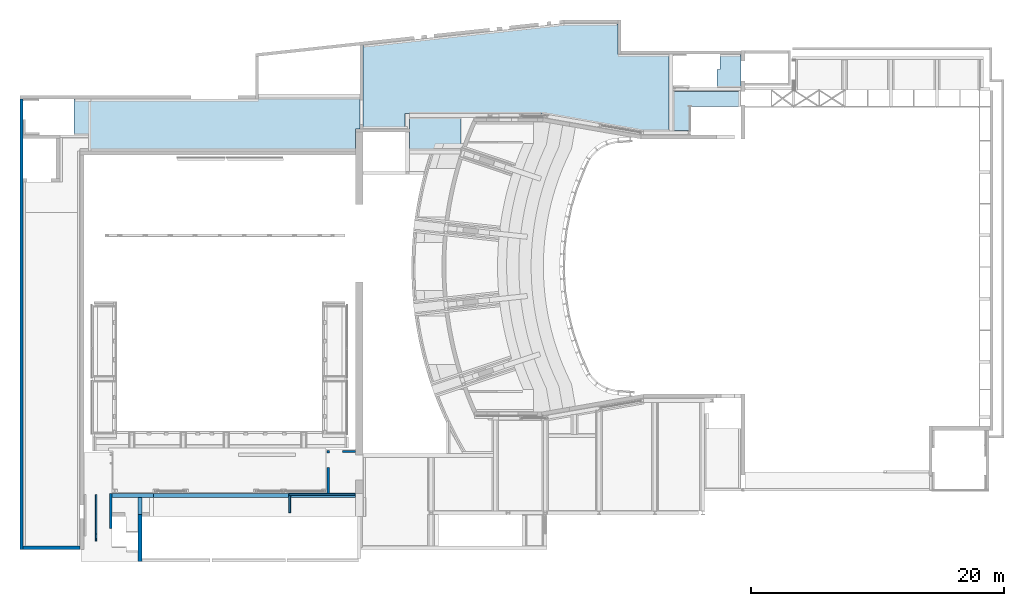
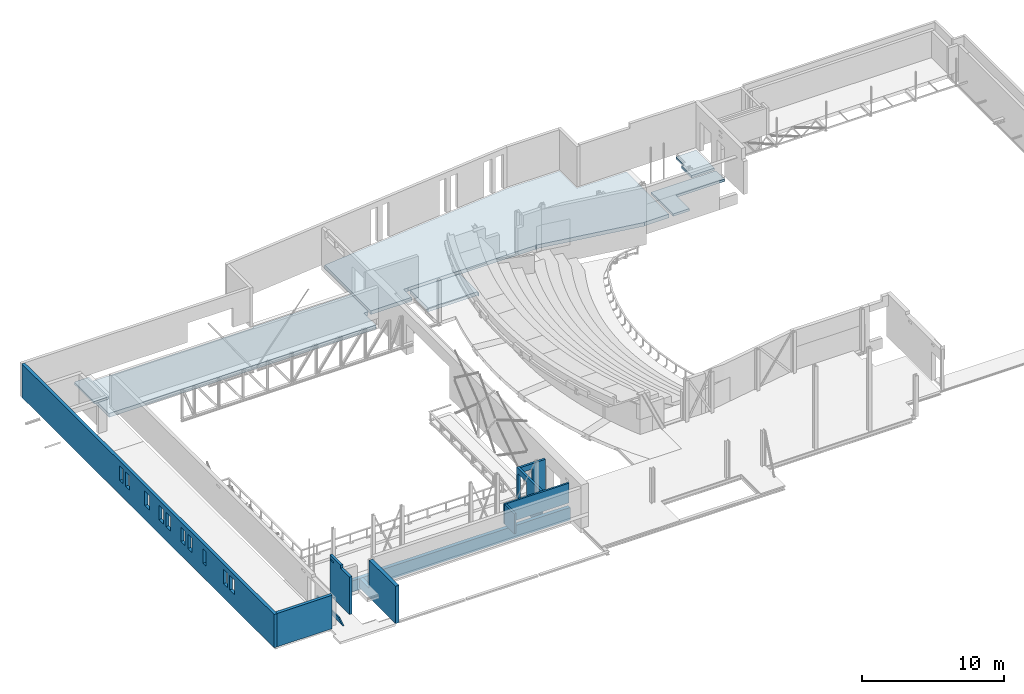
# One storey, part 50 of 68: 10 walls, 5 slabs, 25 openings.
"""IFC2X3 building model written with IfcOpenShell, lengths in millimetres."""

from ifc_helpers import new_model, entity, si_unit, converted_unit, derived_unit, direction, frame, frame_2d, origin, origin_2d_with_axis, place, context, subcontext, project, spatial, polyline, rectangle, outline, extrude, clip, halfspace, bounded_halfspace, faceted_brep, material, layer, layer_set, layer_usage, type_object, element, save


model = new_model("IFC2X3")

# Units and contexts
model_context = context("Model", 3, precision=0.01, world=origin(), true_north=direction((6.12303176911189e-17, 1.0)))
body_context = subcontext(model_context, "Body", "Model", "MODEL_VIEW")
ifc_project = project(units=[si_unit("LENGTHUNIT", "METRE", prefix="MILLI"), si_unit("AREAUNIT", "SQUARE_METRE", prefix="MILLI"), si_unit("VOLUMEUNIT", "CUBIC_METRE"), converted_unit("PLANEANGLEUNIT", "DEGREE", entity("IfcRatioMeasure", 0.0174532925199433), si_unit("PLANEANGLEUNIT", "RADIAN"), dimensions=[0, 0, 0, 0, 0, 0, 0]), si_unit("MASSUNIT", "GRAM", prefix="KILO"), derived_unit("MASSDENSITYUNIT", [(si_unit("MASSUNIT", "GRAM", prefix="KILO"), 1), (si_unit("LENGTHUNIT", "METRE"), -3)]), derived_unit("MOMENTOFINERTIAUNIT", [(si_unit("LENGTHUNIT", "METRE"), 4)]), si_unit("TIMEUNIT", "SECOND"), si_unit("FREQUENCYUNIT", "HERTZ"), si_unit("THERMODYNAMICTEMPERATUREUNIT", "DEGREE_CELSIUS"), derived_unit("THERMALTRANSMITTANCEUNIT", [(si_unit("MASSUNIT", "GRAM", prefix="KILO"), 1), (si_unit("THERMODYNAMICTEMPERATUREUNIT", "KELVIN"), -1), (si_unit("TIMEUNIT", "SECOND"), -3)]), derived_unit("VOLUMETRICFLOWRATEUNIT", [(si_unit("LENGTHUNIT", "METRE"), 3), (si_unit("TIMEUNIT", "SECOND"), -1)]), si_unit("ELECTRICCURRENTUNIT", "AMPERE"), si_unit("ELECTRICVOLTAGEUNIT", "VOLT"), si_unit("POWERUNIT", "WATT"), si_unit("FORCEUNIT", "NEWTON", prefix="KILO"), si_unit("ILLUMINANCEUNIT", "LUX"), si_unit("LUMINOUSFLUXUNIT", "LUMEN"), si_unit("LUMINOUSINTENSITYUNIT", "CANDELA"), derived_unit("USERDEFINED", [(si_unit("MASSUNIT", "GRAM", prefix="KILO"), -1), (si_unit("LENGTHUNIT", "METRE"), -2), (si_unit("TIMEUNIT", "SECOND"), 3), (si_unit("LUMINOUSFLUXUNIT", "LUMEN"), 1)]), derived_unit("LINEARVELOCITYUNIT", [(si_unit("LENGTHUNIT", "METRE"), 1), (si_unit("TIMEUNIT", "SECOND"), -1)]), si_unit("PRESSUREUNIT", "PASCAL"), derived_unit("USERDEFINED", [(si_unit("LENGTHUNIT", "METRE"), -2), (si_unit("MASSUNIT", "GRAM", prefix="KILO"), 1), (si_unit("TIMEUNIT", "SECOND"), -2)]), derived_unit("LINEARFORCEUNIT", [(si_unit("MASSUNIT", "GRAM", prefix="KILO"), 1), (si_unit("LENGTHUNIT", "METRE"), 1), (si_unit("TIMEUNIT", "SECOND"), -2), (si_unit("LENGTHUNIT", "METRE"), -1)]), derived_unit("PLANARFORCEUNIT", [(si_unit("MASSUNIT", "GRAM", prefix="KILO"), 1), (si_unit("LENGTHUNIT", "METRE"), 1), (si_unit("TIMEUNIT", "SECOND"), -2), (si_unit("LENGTHUNIT", "METRE"), -2)])], contexts=[model_context])

# Site, building, storey
site_placement = place(None, origin())
site = spatial("IfcSite", under=ifc_project, at=site_placement, Name="Theater aan de Parade", CompositionType="ELEMENT")
building_placement = place(site_placement, origin())
building = spatial("IfcBuilding", under=site, at=building_placement, Name="Theater aan de Parade", CompositionType="ELEMENT")
storey_placement = place(building_placement, frame((0.0, 0.0, 8750.0)))
storey = spatial("IfcBuildingStorey", under=building, at=storey_placement, Name="02 tweede verdieping", CompositionType="ELEMENT", Elevation=8750.0)

# Slab, openings
ifc_material_1 = material(Name="00_PBT_MAT_systeemvloer")
ifc_layer_1 = layer(ifc_material_1, 320.0)
ifc_layer_set_1 = layer_set([ifc_layer_1], Name="Floor:28_PBT_FL_kanaalplaat_d=320")
ifc_layer_usage_1 = layer_usage(ifc_layer_set_1, "AXIS3", "POSITIVE", 0.0)
slab_type_1 = type_object("IfcSlabType", Name="Floor:28_PBT_FL_kanaalplaat_d=320", PredefinedType="FLOOR", material=ifc_layer_set_1)
slab_1_placement = place(storey_placement, frame((37453.8581300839, 41510.0, -460.0)))
slab_1 = element("IfcSlab", 1, at=slab_1_placement, inside=storey, type_object=slab_type_1, material=ifc_layer_usage_1, Name="Floor:28_PBT_FL_kanaalplaat_d=320", ObjectType="Floor:28_PBT_FL_kanaalplaat_d=320", PredefinedType="FLOOR", context=body_context, shape_type="SweptSolid", body=[
    extrude(outline(polyline([(12105.0120631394, -3185.25955352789), (12105.0120631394, 3347.75659825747), (-3815.5277852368, 5075.25955912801), (-8078.16137009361, 5075.25955912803), (-8078.16137009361, 2636.304931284), (-12315.0120631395, 2636.304931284), (-12315.0120631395, -3550.25955352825), (-9924.67584807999, -3550.2595535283), (-2153.24727665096, -2190.25955352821), (4364.30703170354, -2190.25955352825), (4364.30703170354, -5075.25955912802), (8445.01206572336, -5075.25955912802), (8445.01206572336, -3185.25955352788), (12105.0120631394, -3185.25955352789)])), frame((12105.0120631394, 5075.25955912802, 320.0), z_axis=(0.0, 0.0, -1.0), x_axis=(-1.0, 0.0, 0.0)), (0.0, 0.0, 1.0), 320.0),
])
opening_1_placement = place(slab_1_placement, origin())
element("IfcOpeningElement", 2, at=opening_1_placement, cuts=slab_1, ObjectType="Opening", context=body_context, shape_type="SweptSolid", body=[
    extrude(rectangle(XDim=339.999999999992, YDim=4820.00000559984, at=origin_2d_with_axis()), frame((3510.0, 625.000002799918, 0.0), z_axis=(0.0, 0.0, 1.0), x_axis=(-1.0, 0.0, 0.0)), (0.0, 0.0, 1.0), 320.0),
])
opening_2_placement = place(slab_1_placement, frame((3672.69999741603, 2610.00000559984, -5.0)))
element("IfcOpeningElement", 3, at=opening_2_placement, cuts=slab_1, ObjectType="Opening", context=body_context, shape_type="Brep", body=[
    faceted_brep([(10417.9108771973, 105.0, 325.0), (10417.9108771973, 445.0, 325.0), (0.0, 445.0, 325.0), (0.0, 105.0, 325.0), (10417.9108771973, 445.0, 0.0), (10417.9108771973, 445.0, 1.0), (10417.9108771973, 105.0, 0.0), (10417.9108771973, 445.0, 2.0), (10417.9108771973, 550.0, 1.0), (10417.9108771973, 550.0, 2.0), (0.0, 105.0, 1.0), (0.0, 0.0, 1.0), (0.0, 0.0, 2.0), (0.0, 105.0, 0.0), (0.0, 445.0, 1.0), (0.0, 445.0, 0.0), (0.0, 550.0, 1.0), (0.0, 550.0, 2.0), (0.0, 445.0, 2.0), (0.0, 105.0, 2.0), (9917.91087719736, 445.0, 1.0), (9917.91087719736, 445.0, 2.0), (150.0, 445.0, 1.0), (150.0, 445.0, 2.0), (100.0, 105.0, 2.0), (100.0, 105.0, 1.0), (150.0, 550.0, 2.0), (150.0, 550.0, 1.0), (100.0, 0.0, 2.0), (100.0, 0.0, 1.0), (9917.91087719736, 550.0, 2.0), (9917.91087719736, 550.0, 1.0)], [[[0, 1, 2]], [[2, 3, 0]], [[4, 5, 6]], [[7, 6, 5]], [[8, 9, 5]], [[1, 0, 7]], [[6, 7, 0]], [[5, 9, 7]], [[10, 11, 12]], [[13, 10, 14]], [[14, 15, 13]], [[16, 14, 17]], [[10, 18, 14]], [[19, 3, 2]], [[19, 18, 10]], [[17, 14, 18]], [[2, 18, 19]], [[10, 12, 19]], [[4, 20, 5]], [[20, 4, 15]], [[1, 7, 21]], [[1, 21, 2]], [[20, 22, 21]], [[22, 15, 14]], [[15, 22, 20]], [[23, 18, 2]], [[23, 2, 21]], [[22, 23, 21]], [[0, 24, 6]], [[24, 0, 3]], [[6, 25, 13]], [[25, 6, 24]], [[3, 19, 24]], [[10, 13, 25]], [[4, 6, 13]], [[13, 15, 4]], [[18, 23, 17]], [[26, 17, 23]], [[16, 27, 22]], [[22, 14, 16]], [[26, 23, 22]], [[22, 27, 26]], [[17, 26, 27]], [[27, 16, 17]], [[28, 24, 12]], [[19, 12, 24]], [[11, 10, 25]], [[25, 29, 11]], [[28, 12, 11]], [[11, 29, 28]], [[24, 28, 29]], [[29, 25, 24]], [[21, 7, 9]], [[9, 30, 21]], [[31, 8, 5]], [[5, 20, 31]], [[30, 9, 8]], [[8, 31, 30]], [[21, 30, 31]], [[31, 20, 21]]]),
])
opening_3_placement = place(slab_1_placement, origin())
element("IfcOpeningElement", 4, at=opening_3_placement, cuts=slab_1, ObjectType="Opening", context=body_context, shape_type="SweptSolid", body=[
    extrude(rectangle(XDim=340.000000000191, YDim=3727.76816918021, at=origin_2d_with_axis()), frame((24063.8426372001, 1525.00000568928, -5.0), z_axis=(0.0, 0.0, 1.0), x_axis=(0.0, 1.0, 0.0)), (0.0, 0.0, 1.0), 325.0),
])
opening_4_placement = place(slab_1_placement, origin())
element("IfcOpeningElement", 5, at=opening_4_placement, cuts=slab_1, ObjectType="Opening", context=body_context, shape_type="SweptSolid", body=[
    extrude(rectangle(XDim=300.000000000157, YDim=5372.37384459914, at=origin_2d_with_axis()), frame((27216.2110485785, 4986.86312279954, 0.0), z_axis=(0.0, 0.0, 1.0), x_axis=(0.0, 1.0, 0.0)), (0.0, 0.0, 1.0), 325.0),
])
opening_5_placement = place(slab_1_placement, origin())
element("IfcOpeningElement", 6, at=opening_5_placement, cuts=slab_1, ObjectType="Opening", context=body_context, shape_type="SweptSolid", body=[
    extrude(rectangle(XDim=340.000000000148, YDim=6076.9979908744, at=origin_2d_with_axis()), frame((24380.0241262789, 4713.499001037, -5.0)), (0.0, 0.0, 1.0), 325.0),
])
opening_6_placement = place(slab_1_placement, origin())
element("IfcOpeningElement", 7, at=opening_6_placement, cuts=slab_1, ObjectType="Opening", context=body_context, shape_type="SweptSolid", body=[
    extrude(rectangle(XDim=340.000000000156, YDim=8227.18093451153, at=origin_2d_with_axis()), frame((18142.8870244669, 2205.19016078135, -5.0), z_axis=(0.0, 0.0, 1.0), x_axis=(0.172380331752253, 0.985030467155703, 0.0)), (0.0, 0.0, 1.0), 325.0),
])
opening_7_placement = place(slab_1_placement, origin())
element("IfcOpeningElement", 8, at=opening_7_placement, cuts=slab_1, ObjectType="Opening", context=body_context, shape_type="SweptSolid", body=[
    extrude(rectangle(XDim=4071.14187250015, YDim=340.000000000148, at=origin_2d_with_axis()), frame((5695.57093366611, 0.0, -5.0)), (0.0, 0.0, 1.0), 415.0),
])

# Slabs
ifc_layer_usage_2 = layer_usage(ifc_layer_set_1, "AXIS3", "POSITIVE", 0.0)
slab_type_2 = type_object("IfcSlabType", Name="Floor:28_PBT_FL_kanaalplaat_d=320", PredefinedType="FLOOR", material=ifc_layer_set_1)
slab_2_placement = place(storey_placement, origin())
element("IfcSlab", 9, at=slab_2_placement, inside=storey, type_object=slab_type_2, material=ifc_layer_usage_2, Name="Floor:28_PBT_FL_kanaalplaat_d=320", ObjectType="Floor:28_PBT_FL_kanaalplaat_d=320", PredefinedType="FLOOR", context=body_context, shape_type="SweptSolid", body=[
    extrude(outline(polyline([(-2483.26875467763, -14521.2607047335), (1566.42291822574, -14521.2607047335), (1566.42291822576, -386.220140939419), (1673.42291822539, -386.220140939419), (1673.42291822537, 7628.74042283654), (-756.577081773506, 7628.74042283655), (-756.577081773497, 7278.74042283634), (-2483.26875467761, 7278.74042283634), (-2483.26875467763, -14521.2607047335)])), frame((29575.1177072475, 44106.5770817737, -80.0), z_axis=(0.0, 0.0, -1.0), x_axis=(0.0, 1.0, 0.0)), (0.0, 0.0, 1.0), 320.0),
])
ifc_layer_2 = layer(ifc_material_1, 200.0)
ifc_layer_set_2 = layer_set([ifc_layer_2], Name="Floor:28_PBT_FL_massieve plaat_d=200")
ifc_layer_usage_3 = layer_usage(ifc_layer_set_2, "AXIS3", "POSITIVE", 0.0)
slab_type_3 = type_object("IfcSlabType", Name="Floor:28_PBT_FL_massieve plaat_d=200", PredefinedType="FLOOR", material=ifc_layer_set_2)
slab_3_placement = place(storey_placement, origin())
element("IfcSlab", 10, at=slab_3_placement, inside=storey, type_object=slab_type_3, material=ifc_layer_usage_3, Name="Floor:28_PBT_FL_massieve plaat_d=200", ObjectType="Floor:28_PBT_FL_massieve plaat_d=200", PredefinedType="FLOOR", context=body_context, shape_type="SweptSolid", body=[
    extrude(rectangle(XDim=2782.9999999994, YDim=1200.0, at=frame_2d((0.0, -1.08002495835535e-12), x_axis=(1.0, 0.0))), frame((15162.620676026, 44281.4999999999, 365.0), z_axis=(0.0, 0.0, -1.0), x_axis=(0.0, 1.0, 0.0)), (0.0, 0.0, 1.0), 200.0),
])

# Slab, opening
ifc_layer_usage_4 = layer_usage(ifc_layer_set_2, "AXIS3", "POSITIVE", 0.0)
slab_type_4 = type_object("IfcSlabType", Name="Floor:28_PBT_FL_massieve plaat_d=200", PredefinedType="FLOOR")
slab_4_placement = place(storey_placement, frame((62003.8822563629, 43205.0, -460.0)))
slab_4 = element("IfcSlab", 11, at=slab_4_placement, inside=storey, type_object=slab_type_4, material=ifc_layer_usage_4, Name="Floor:28_PBT_FL_massieve plaat_d=200", ObjectType="Floor:28_PBT_FL_massieve plaat_d=200", PredefinedType="FLOOR", context=body_context, shape_type="SweptSolid", body=[
    extrude(outline(polyline([(1338.80991866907, -3008.28224236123), (2676.18692229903, -3008.28224236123), (2676.18692229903, 104.281583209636), (-2626.18692229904, 104.281583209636), (-2626.18692229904, -1095.71841679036), (1338.80991866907, -1095.71841679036), (1338.80991866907, -3008.28224236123)])), frame((2676.18692229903, 3008.28224236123, 200.0), z_axis=(0.0, 0.0, -1.0), x_axis=(-1.0, 0.0, 0.0)), (0.0, 0.0, 1.0), 200.0),
])
placement = place(slab_4_placement, origin())
element("IfcOpeningElement", 12, at=placement, cuts=slab_4, ObjectType="Opening", context=body_context, shape_type="SweptSolid", body=[
    extrude(rectangle(XDim=300.000000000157, YDim=5372.37384459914, at=origin_2d_with_axis()), frame((2666.18692229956, 3291.86311711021, 0.0), z_axis=(0.0, 0.0, 1.0), x_axis=(0.0, 1.0, 0.0)), (0.0, 0.0, 1.0), 325.0),
])

slab_type_5 = type_object("IfcSlabType", Name="Floor:28_PBT_FL_massieve plaat_d=200", PredefinedType="FLOOR", material=ifc_layer_set_2)
slab_5_placement = place(storey_placement, frame((62003.8822563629, 43205.0, -460.0)))
slab_5 = element("IfcSlab", 13, at=slab_5_placement, inside=storey, type_object=slab_type_5, material=ifc_layer_usage_4, Name="Floor:28_PBT_FL_massieve plaat_d=200:2", ObjectType="Floor:28_PBT_FL_massieve plaat_d=200", PredefinedType="FLOOR", context=body_context, shape_type="SweptSolid", body=[
    extrude(outline(polyline([(-2676.18692229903, 3008.28224236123), (-2676.18692229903, 433.580874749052), (-806.061221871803, 433.580874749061), (-806.061221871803, 1838.71574842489), (-1033.81307773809, 1838.71574842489), (-1033.81307773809, 3008.28224236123), (-2676.18692229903, 3008.28224236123)])), frame((2676.18692229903, 3008.28224236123, 200.0), z_axis=(0.0, 0.0, -1.0), x_axis=(-1.0, 0.0, 0.0)), (0.0, 0.0, 1.0), 200.0),
])
element("IfcOpeningElement", 14, at=placement, cuts=slab_5, ObjectType="Opening", context=body_context, shape_type="SweptSolid", body=[
    extrude(rectangle(XDim=300.000000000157, YDim=5372.37384459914, at=origin_2d_with_axis()), frame((2666.18692229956, 3291.86311711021, 0.0), z_axis=(0.0, 0.0, 1.0), x_axis=(0.0, 1.0, 0.0)), (0.0, 0.0, 1.0), 325.0),
])

# Wall, opening
ifc_material_2 = material(Name="00_PBT_MAT_beton t.p.g._C30/37")
ifc_layer_3 = layer(ifc_material_2, 300.0)
ifc_layer_set_3 = layer_set([ifc_layer_3], Name="Basic Wall:28_PBT_WA_beton t.p.g._d=300_C30/37")
ifc_layer_usage_5 = layer_usage(ifc_layer_set_3, "AXIS2", "NEGATIVE", 150.0)
wall_type_1 = type_object("IfcWallType", Name="Basic Wall:28_PBT_WA_beton t.p.g._d=300_C30/37", PredefinedType="STANDARD", material=ifc_layer_set_3)
wall_1_placement = place(storey_placement, frame((19803.857002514, 14186.2906963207, -90.0), z_axis=(0.0, 0.0, 1.0), x_axis=(0.0, -1.0, 0.0)))
wall_1 = element("IfcWallStandardCase", 15, at=wall_1_placement, inside=storey, type_object=wall_type_1, material=ifc_layer_usage_5, Name="Basic Wall:28_PBT_WA_beton t.p.g._d=300_C30/37", ObjectType="Basic Wall:28_PBT_WA_beton t.p.g._d=300_C30/37", context=body_context, shape_type="SweptSolid", body=[
    extrude(rectangle(XDim=5097.3726639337, YDim=300.000000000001, at=frame_2d((2548.68633196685, 4.9737991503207e-13), x_axis=(-1.0, 0.0))), origin(), (0.0, 0.0, 1.0), 3220.00000000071),
])
opening_10_placement = place(wall_1_placement, origin())
element("IfcOpeningElement", 16, at=opening_10_placement, cuts=wall_1, Name="Basic Wall:28_PBT_WA_beton t.p.g._d=300_C30/37", ObjectType="Opening", context=body_context, shape_type="SweptSolid", body=[
    extrude(rectangle(XDim=2413.0, YDim=1517.06392662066, at=frame_2d((0.0, -4.54747350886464e-13), x_axis=(0.0, 1.0))), frame((608.53196331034, 150.0, 2013.50000000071), z_axis=(0.0, -1.0, 0.0), x_axis=(-1.0, 0.0, 0.0)), (0.0, 0.0, 1.0), 300.0),
])

# Wall
ifc_layer_usage_6 = layer_usage(ifc_layer_set_3, "AXIS2", "POSITIVE", -150.0)
wall_2_placement = place(storey_placement, frame((36853.8581300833, 14336.290696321, -250.0), z_axis=(0.0, 0.0, 1.0), x_axis=(-1.0, 0.0, 0.0)))
element("IfcWallStandardCase", 17, at=wall_2_placement, inside=storey, type_object=wall_type_1, material=ifc_layer_usage_6, Name="Basic Wall:28_PBT_WA_beton t.p.g._d=300_C30/37", ObjectType="Basic Wall:28_PBT_WA_beton t.p.g._d=300_C30/37", context=body_context, shape_type="Clipping", body=[
    clip(clip(extrude(rectangle(XDim=19250.0011275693, YDim=300.000000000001, at=frame_2d((9625.00056378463, 7.105427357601e-14), x_axis=(-1.0, 0.0))), origin(), (0.0, 0.0, 1.0), 1084.99999999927), bounded_halfspace(frame((0.0, -150.0, 1085.0), z_axis=(0.0, 0.0, -1.0), x_axis=(0.0, 1.0, 0.0)), True, frame((0.0, -150.0, 1085.0)), polyline([(0.0, 0.0), (16000.0011275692, 0.0), (16000.0011275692, 300.0), (0.0, 300.0), (0.0, 0.0)]))), bounded_halfspace(frame((16000.0011275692, -150.0, 967.0), z_axis=(0.0, 0.0, -1.0), x_axis=(0.0, 1.0, 0.0)), True, frame((16000.0011275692, -150.0, 967.0)), polyline([(0.0, 0.0), (3250.0, 0.0), (3250.0, 300.0), (1200.0, 300.0), (900.0, 300.0), (0.0, 300.0), (0.0, 0.0)]))),
])

# Wall, openings
ifc_layer_4 = layer(ifc_material_2, 250.0)
ifc_layer_set_4 = layer_set([ifc_layer_4], Name="Basic Wall:28_PBT_WA_beton t.p.g._d=250_C30/37")
ifc_layer_usage_7 = layer_usage(ifc_layer_set_4, "AXIS2", "POSITIVE", -125.0)
wall_type_2 = type_object("IfcWallType", Name="Basic Wall:28_PBT_WA_beton t.p.g._d=250_C30/37", PredefinedType="STANDARD", material=ifc_layer_set_4)
wall_3_placement = place(storey_placement, frame((10429.1125537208, 10069.3270746, 505.0), z_axis=(0.0, 0.0, 1.0), x_axis=(0.0, 1.0, 0.0)))
wall_3 = element("IfcWallStandardCase", 18, at=wall_3_placement, inside=storey, type_object=wall_type_2, material=ifc_layer_usage_7, Name="Basic Wall:28_PBT_WA_beton t.p.g._d=250_C30/37", ObjectType="Basic Wall:28_PBT_WA_beton t.p.g._d=250_C30/37", context=body_context, shape_type="SweptSolid", body=[
    extrude(rectangle(XDim=35653.6729253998, YDim=249.999999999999, at=frame_2d((17826.8364626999, 3.12638803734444e-13), x_axis=(-1.0, 0.0))), origin(), (0.0, 0.0, 1.0), 2885.0),
])
opening_11_placement = place(wall_3_placement, origin())
element("IfcOpeningElement", 19, at=opening_11_placement, cuts=wall_3, Name="Basic Wall:28_PBT_WA_beton t.p.g._d=250_C30/37", ObjectType="Opening", context=body_context, shape_type="SweptSolid", body=[
    extrude(rectangle(XDim=1249.99999999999, YDim=460.000000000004, at=frame_2d((0.0, -2.17426077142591e-12), x_axis=(1.0, 0.0))), frame((9829.97964800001, -125.0, 1825.0), z_axis=(0.0, 1.0, 0.0), x_axis=(0.0, 0.0, -1.0)), (0.0, 0.0, 1.0), 249.999999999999),
])
opening_12_placement = place(wall_3_placement, origin())
element("IfcOpeningElement", 20, at=opening_12_placement, cuts=wall_3, Name="Basic Wall:28_PBT_WA_beton t.p.g._d=250_C30/37", ObjectType="Opening", context=body_context, shape_type="SweptSolid", body=[
    extrude(rectangle(XDim=1249.99999999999, YDim=570.000000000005, at=frame_2d((0.0, 2.1600499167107e-12), x_axis=(1.0, 0.0))), frame((6884.89976780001, -125.0, 1825.0), z_axis=(0.0, 1.0, 0.0), x_axis=(0.0, 0.0, -1.0)), (0.0, 0.0, 1.0), 249.999999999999),
])
opening_13_placement = place(wall_3_placement, origin())
element("IfcOpeningElement", 21, at=opening_13_placement, cuts=wall_3, Name="Basic Wall:28_PBT_WA_beton t.p.g._d=250_C30/37", ObjectType="Opening", context=body_context, shape_type="SweptSolid", body=[
    extrude(rectangle(XDim=1249.99999999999, YDim=570.000000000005, at=frame_2d((0.0, 2.1600499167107e-12), x_axis=(1.0, 0.0))), frame((11884.8997584, -125.0, 1825.0), z_axis=(0.0, 1.0, 0.0), x_axis=(0.0, 0.0, -1.0)), (0.0, 0.0, 1.0), 249.999999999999),
])
opening_14_placement = place(wall_3_placement, origin())
element("IfcOpeningElement", 22, at=opening_14_placement, cuts=wall_3, Name="Basic Wall:28_PBT_WA_beton t.p.g._d=250_C30/37", ObjectType="Opening", context=body_context, shape_type="SweptSolid", body=[
    extrude(rectangle(XDim=1249.99999999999, YDim=570.000000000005, at=frame_2d((0.0, 2.1600499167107e-12), x_axis=(1.0, 0.0))), frame((12884.9921385, -125.0, 1825.0), z_axis=(0.0, 1.0, 0.0), x_axis=(0.0, 0.0, -1.0)), (0.0, 0.0, 1.0), 249.999999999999),
])
opening_15_placement = place(wall_3_placement, origin())
element("IfcOpeningElement", 23, at=opening_15_placement, cuts=wall_3, Name="Basic Wall:28_PBT_WA_beton t.p.g._d=250_C30/37", ObjectType="Opening", context=body_context, shape_type="SweptSolid", body=[
    extrude(rectangle(XDim=1249.99999999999, YDim=512.000000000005, at=origin_2d_with_axis()), frame((21588.9785241, -125.0, 1825.0), z_axis=(0.0, 1.0, 0.0), x_axis=(0.0, 0.0, -1.0)), (0.0, 0.0, 1.0), 249.999999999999),
])
opening_16_placement = place(wall_3_placement, origin())
element("IfcOpeningElement", 24, at=opening_16_placement, cuts=wall_3, Name="Basic Wall:28_PBT_WA_beton t.p.g._d=250_C30/37", ObjectType="Opening", context=body_context, shape_type="SweptSolid", body=[
    extrude(rectangle(XDim=1249.99999999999, YDim=591.000000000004, at=origin_2d_with_axis()), frame((20717.4785228, -125.0, 1825.0), z_axis=(0.0, 1.0, 0.0), x_axis=(0.0, 0.0, -1.0)), (0.0, 0.0, 1.0), 249.999999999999),
])
opening_17_placement = place(wall_3_placement, origin())
element("IfcOpeningElement", 25, at=opening_17_placement, cuts=wall_3, Name="Basic Wall:28_PBT_WA_beton t.p.g._d=250_C30/37", ObjectType="Opening", context=body_context, shape_type="SweptSolid", body=[
    extrude(rectangle(XDim=1249.99999999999, YDim=680.000000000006, at=frame_2d((0.0, 2.1600499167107e-12), x_axis=(1.0, 0.0))), frame((5940.89976780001, -125.0, 1825.0), z_axis=(0.0, 1.0, 0.0), x_axis=(0.0, 0.0, -1.0)), (0.0, 0.0, 1.0), 249.999999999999),
])
opening_18_placement = place(wall_3_placement, origin())
element("IfcOpeningElement", 26, at=opening_18_placement, cuts=wall_3, Name="Basic Wall:28_PBT_WA_beton t.p.g._d=250_C30/37", ObjectType="Opening", context=body_context, shape_type="SweptSolid", body=[
    extrude(rectangle(XDim=1249.99999999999, YDim=680.000000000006, at=frame_2d((0.0, -2.1600499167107e-12), x_axis=(1.0, 0.0))), frame((14940.9796386, -125.0, 1825.0), z_axis=(0.0, 1.0, 0.0), x_axis=(0.0, 0.0, -1.0)), (0.0, 0.0, 1.0), 249.999999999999),
])
opening_19_placement = place(wall_3_placement, origin())
element("IfcOpeningElement", 27, at=opening_19_placement, cuts=wall_3, Name="Basic Wall:28_PBT_WA_beton t.p.g._d=250_C30/37", ObjectType="Opening", context=body_context, shape_type="SweptSolid", body=[
    extrude(rectangle(XDim=1249.99999999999, YDim=680.000000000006, at=frame_2d((0.0, -2.1600499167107e-12), x_axis=(1.0, 0.0))), frame((15939.3224091, -125.0, 1825.0), z_axis=(0.0, 1.0, 0.0), x_axis=(0.0, 0.0, -1.0)), (0.0, 0.0, 1.0), 249.999999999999),
])
opening_20_placement = place(wall_3_placement, origin())
element("IfcOpeningElement", 28, at=opening_20_placement, cuts=wall_3, Name="Basic Wall:28_PBT_WA_beton t.p.g._d=250_C30/37", ObjectType="Opening", context=body_context, shape_type="SweptSolid", body=[
    extrude(rectangle(XDim=1249.99999999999, YDim=680.000000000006, at=frame_2d((0.0, 2.1600499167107e-12), x_axis=(1.0, 0.0))), frame((17939.3224091, -125.0, 1825.0), z_axis=(0.0, 1.0, 0.0), x_axis=(0.0, 0.0, -1.0)), (0.0, 0.0, 1.0), 249.999999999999),
])

# Wall
ifc_layer_usage_8 = layer_usage(ifc_layer_set_4, "AXIS2", "NEGATIVE", 125.0)
wall_4_placement = place(storey_placement, frame((10554.1125537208, 10194.3270746, 505.0)))
element("IfcWallStandardCase", 29, at=wall_4_placement, inside=storey, type_object=wall_type_2, material=ifc_layer_usage_8, Name="Basic Wall:28_PBT_WA_beton t.p.g._d=250_C30/37", ObjectType="Basic Wall:28_PBT_WA_beton t.p.g._d=250_C30/37", context=body_context, shape_type="SweptSolid", body=[
    extrude(rectangle(XDim=4499.74444879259, YDim=249.999999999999, at=frame_2d((2249.8722243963, 2.1316282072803e-13), x_axis=(-1.0, 0.0))), origin(), (0.0, 0.0, 1.0), 2885.0),
])

# Wall, openings
ifc_layer_5 = layer(ifc_material_2, 200.0)
ifc_layer_set_5 = layer_set([ifc_layer_5], Name="Basic Wall:28_PBT_WA_beton t.p.g._d=200_C30/37")
ifc_layer_usage_9 = layer_usage(ifc_layer_set_5, "AXIS2", "NEGATIVE", 100.0)
wall_type_3 = type_object("IfcWallType", Name="Basic Wall:28_PBT_WA_beton t.p.g._d=200_C30/37", PredefinedType="STANDARD", material=ifc_layer_set_5)
wall_5_placement = place(storey_placement, frame((17503.857002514, 14486.2906236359, -90.0), z_axis=(0.0, 0.0, 1.0), x_axis=(0.0, -1.0, 0.0)))
wall_5 = element("IfcWallStandardCase", 30, at=wall_5_placement, inside=storey, type_object=wall_type_3, material=ifc_layer_usage_9, Name="Basic Wall:28_PBT_WA_beton t.p.g._d=200_C30/37", ObjectType="Basic Wall:28_PBT_WA_beton t.p.g._d=200_C30/37", context=body_context, shape_type="Clipping", body=[
    clip(extrude(rectangle(XDim=2786.9709390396, YDim=199.999999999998, at=frame_2d((1393.4854695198, -7.105427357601e-13), x_axis=(-1.0, 0.0))), origin(), (0.0, 0.0, 1.0), 3480.0), bounded_halfspace(frame((1517.06385393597, -100.0, 3220.0), z_axis=(-1.0, 0.0, 0.0), x_axis=(0.0, 0.0, 1.0)), True, frame((1517.06385393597, -100.0, 3220.0), z_axis=(-1.0, 0.0, 0.0), x_axis=(0.0, 0.0, 1.0)), polyline([(0.0, 0.0), (260.0, 0.0), (260.0, 200.0), (0.0, 200.0), (0.0, 0.0)]))),
])
opening_21_placement = place(wall_5_placement, origin())
element("IfcOpeningElement", 31, at=opening_21_placement, cuts=wall_5, Name="Basic Wall:28_PBT_WA_beton t.p.g._d=200_C30/37", ObjectType="Opening", context=body_context, shape_type="SweptSolid", body=[
    extrude(rectangle(XDim=149.999999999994, YDim=450.000000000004, at=frame_2d((-1.08002495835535e-12, -1.08002495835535e-12), x_axis=(1.0, 0.0))), frame((326.290623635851, -100.0, 3118.30127018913), z_axis=(0.0, 1.0, 0.0), x_axis=(0.0, 0.0, -1.0)), (0.0, 0.0, 1.0), 199.999999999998),
])
opening_22_placement = place(wall_5_placement, origin())
element("IfcOpeningElement", 32, at=opening_22_placement, cuts=wall_5, Name="Basic Wall:28_PBT_WA_beton t.p.g._d=200_C30/37", ObjectType="Opening", context=body_context, shape_type="SweptSolid", body=[
    extrude(rectangle(XDim=259.999999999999, YDim=1119.90708510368, at=frame_2d((1.08002495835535e-12, 0.0), x_axis=(1.0, 0.0))), frame((2227.01739648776, 100.0, 3350.0), z_axis=(0.0, -1.0, 0.0), x_axis=(0.0, 0.0, 1.0)), (0.0, 0.0, 1.0), 200.0),
])

# Walls
ifc_material_3 = material(Name="00_PBT_MAT_kalkzandsteen_CS20")
ifc_layer_6 = layer(ifc_material_3, 100.0)
ifc_layer_set_6 = layer_set([ifc_layer_6], Name="Basic Wall:28_PBT_WA_kzs_d=100_CS20")
ifc_layer_usage_10 = layer_usage(ifc_layer_set_6, "AXIS2", "NEGATIVE", 50.0)
wall_type_4 = type_object("IfcWallType", Name="Basic Wall:28_PBT_WA_kzs_d=100_CS20", PredefinedType="STANDARD", material=ifc_layer_set_6)
wall_6_placement = place(storey_placement, frame((16328.8570025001, 14394.06804779, -90.0), z_axis=(0.0, 0.0, 1.0), x_axis=(0.0, -1.0, 0.0)))
element("IfcWallStandardCase", 33, at=wall_6_placement, inside=storey, type_object=wall_type_4, material=ifc_layer_usage_10, Name="Basic Wall:28_PBT_WA_kzs_d=100_CS20", ObjectType="Basic Wall:28_PBT_WA_kzs_d=100_CS20", context=body_context, shape_type="Clipping", body=[
    clip(extrude(rectangle(XDim=3686.73620368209, YDim=99.9999999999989, at=frame_2d((1843.36810184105, -1.98951966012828e-13), x_axis=(-1.0, 0.0))), origin(), (0.0, 0.0, 1.0), 395.000000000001), halfspace(frame((3100.10254033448, -50.0, 395.0), z_axis=(0.558522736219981, 0.0, 0.829489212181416), x_axis=(0.0, 1.0, 0.0)), False)),
])
ifc_material_4 = material(Name="00_PBT_MAT_hout")
ifc_layer_7 = layer(ifc_material_4, 12.0)
ifc_material_5 = material(Name="00_PBT_MAT_isolatie")
ifc_layer_8 = layer(ifc_material_5, 120.0)
ifc_layer_9 = layer(ifc_material_4, 12.0)
ifc_layer_set_7 = layer_set([ifc_layer_7, ifc_layer_8, ifc_layer_9], Name="Basic Wall:28_PBT_WA_HSB_d=144")
ifc_layer_usage_11 = layer_usage(ifc_layer_set_7, "AXIS2", "NEGATIVE", 72.0)
wall_type_5 = type_object("IfcWallType", Name="Basic Wall:28_PBT_WA_HSB_d=144", PredefinedType="STANDARD", material=ifc_layer_set_7)
wall_7_placement = place(storey_placement, frame((31583.8505678, 14414.2906236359, 1135.0)))
element("IfcWallStandardCase", 34, at=wall_7_placement, inside=storey, type_object=wall_type_5, material=ifc_layer_usage_11, Name="Basic Wall:28_PBT_WA_HSB_d=144", ObjectType="Basic Wall:28_PBT_WA_HSB_d=144", context=body_context, shape_type="SweptSolid", body=[
    extrude(rectangle(XDim=5270.00756228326, YDim=144.000000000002, at=frame_2d((2635.00378114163, -4.9737991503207e-13), x_axis=(-1.0, 0.0))), origin(), (0.0, 0.0, 1.0), 1711.0),
])
ifc_layer_usage_12 = layer_usage(ifc_layer_set_7, "AXIS2", "POSITIVE", -72.0)
wall_8_placement = place(storey_placement, frame((31655.8505678, 14342.2906236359, 1135.0), z_axis=(0.0, 0.0, 1.0), x_axis=(0.0, -1.0, 0.0)))
element("IfcWallStandardCase", 35, at=wall_8_placement, inside=storey, type_object=wall_type_5, material=ifc_layer_usage_12, Name="Basic Wall:28_PBT_WA_HSB_d=144", ObjectType="Basic Wall:28_PBT_WA_HSB_d=144", context=body_context, shape_type="SweptSolid", body=[
    extrude(rectangle(XDim=1373.06385393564, YDim=144.000000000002, at=frame_2d((686.531926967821, 6.3948846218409e-14), x_axis=(-1.0, 0.0))), origin(), (0.0, 0.0, 1.0), 1711.0),
])

# Wall, openings
ifc_layer_10 = layer(ifc_material_4, 12.0)
ifc_layer_11 = layer(ifc_material_5, 159.0)
ifc_layer_12 = layer(ifc_material_4, 12.0)
ifc_layer_set_8 = layer_set([ifc_layer_10, ifc_layer_11, ifc_layer_12], Name="Basic Wall:28_PBT_WA_HSB_d=183")
ifc_layer_usage_13 = layer_usage(ifc_layer_set_8, "AXIS2", "POSITIVE", -91.5)
wall_type_6 = type_object("IfcWallType", Name="Basic Wall:28_PBT_WA_HSB_d=183", PredefinedType="STANDARD", material=ifc_layer_set_8)
wall_9_placement = place(storey_placement, frame((34712.3582999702, 17894.3084469, -250.0), z_axis=(0.0, 0.0, 1.0), x_axis=(0.0, -1.0, 0.0)))
wall_9 = element("IfcWallStandardCase", 36, at=wall_9_placement, inside=storey, type_object=wall_type_6, material=ifc_layer_usage_13, Name="Basic Wall:28_PBT_WA_HSB_d=183", ObjectType="Basic Wall:28_PBT_WA_HSB_d=183", context=body_context, shape_type="SweptSolid", body=[
    extrude(rectangle(XDim=3408.01782326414, YDim=183.000000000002, at=frame_2d((1704.00891163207, -8.95283847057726e-13), x_axis=(-1.0, 0.0))), origin(), (0.0, 0.0, 1.0), 3096.0),
])
opening_23_placement = place(wall_9_placement, origin())
element("IfcOpeningElement", 37, at=opening_23_placement, cuts=wall_9, Name="Basic Wall:28_PBT_WA_HSB_d=183", ObjectType="Opening", context=body_context, shape_type="SweptSolid", body=[
    extrude(rectangle(XDim=2619.99999999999, YDim=1150.00000000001, at=frame_2d((-1.08002495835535e-12, -5.6843418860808e-13), x_axis=(0.0, 1.0))), frame((780.017750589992, -91.5000000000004, 1310.0), z_axis=(0.0, 1.0, 0.0), x_axis=(1.0, 0.0, 0.0)), (0.0, 0.0, 1.0), 183.000000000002),
])
opening_24_placement = place(wall_9_placement, origin())
element("IfcOpeningElement", 38, at=opening_24_placement, cuts=wall_9, Name="Basic Wall:28_PBT_WA_HSB_d=183", ObjectType="Opening", context=body_context, shape_type="SweptSolid", body=[
    extrude(rectangle(XDim=2619.99999999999, YDim=183.000000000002, at=frame_2d((-1.08002495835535e-12, 5.6843418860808e-13), x_axis=(0.0, 1.0))), frame((91.5000000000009, 91.4999999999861, 1310.0), z_axis=(0.0, 1.0, 0.0), x_axis=(-1.0, 0.0, 0.0)), (0.0, 0.0, 1.0), 1034.0),
])

# Wall, opening
ifc_layer_usage_14 = layer_usage(ifc_layer_set_8, "AXIS2", "NEGATIVE", 91.5)
wall_10_placement = place(storey_placement, frame((34803.8582999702, 17802.8084469, -250.0)))
wall_10 = element("IfcWallStandardCase", 39, at=wall_10_placement, inside=storey, type_object=wall_type_6, material=ifc_layer_usage_14, Name="Basic Wall:28_PBT_WA_HSB_d=183", ObjectType="Basic Wall:28_PBT_WA_HSB_d=183", context=body_context, shape_type="SweptSolid", body=[
    extrude(rectangle(XDim=2049.99983011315, YDim=183.000000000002, at=frame_2d((1024.99991505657, 5.25801624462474e-13), x_axis=(-1.0, 0.0))), origin(), (0.0, 0.0, 1.0), 3096.0),
])
opening_25_placement = place(wall_10_placement, origin())
element("IfcOpeningElement", 40, at=opening_25_placement, cuts=wall_10, Name="Basic Wall:28_PBT_WA_HSB_d=183", ObjectType="Opening", context=body_context, shape_type="SweptSolid", body=[
    extrude(rectangle(XDim=2619.99999999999, YDim=1034.0, at=frame_2d((-2.1600499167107e-12, -5.6843418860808e-13), x_axis=(0.0, 1.0))), frame((517.0, -91.4999999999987, 1310.0), z_axis=(0.0, 1.0, 0.0), x_axis=(1.0, 0.0, 0.0)), (0.0, 0.0, 1.0), 183.000000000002),
])

save(model, "model.ifc")
